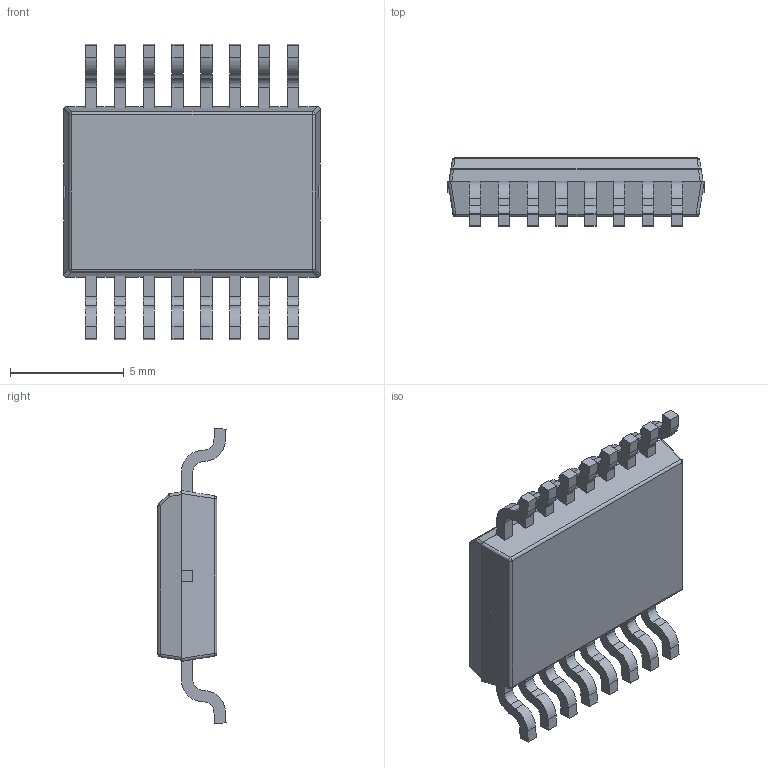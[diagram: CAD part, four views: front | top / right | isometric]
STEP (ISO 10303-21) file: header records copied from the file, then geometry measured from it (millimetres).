
FILE_DESCRIPTION(('STEP AP214'),'1');
FILE_NAME('MC-16-Package.STEP','2024-12-23T14:34:41',(' '),('ANSOFT Corporation'),'Spatial InterOp 3D',' ',' ');
FILE_SCHEMA(('AUTOMOTIVE_DESIGN { 1 0 10303 214 1 1 1 1 }'));
Length unit declared in the file: millimetre
Products named in the file (1): BossExtrude1
Bounding box: 11.29 x 3 x 13 mm (x, y, z)
Volume: 220.8 mm3; surface area: 360.5 mm2
Topology: 1 solids, 1 shells, 271 faces, 776 edges, 502 vertices
Faces by surface type: plane 164, cylinder 91, sphere 10, extrusion 6
Entity records: 8851 total; most frequent: CARTESIAN_POINT 1681, ORIENTED_EDGE 1536, DIRECTION 1460, EDGE_CURVE 768, VECTOR 580, LINE 574, VERTEX_POINT 502, AXIS2_PLACEMENT_3D 440
